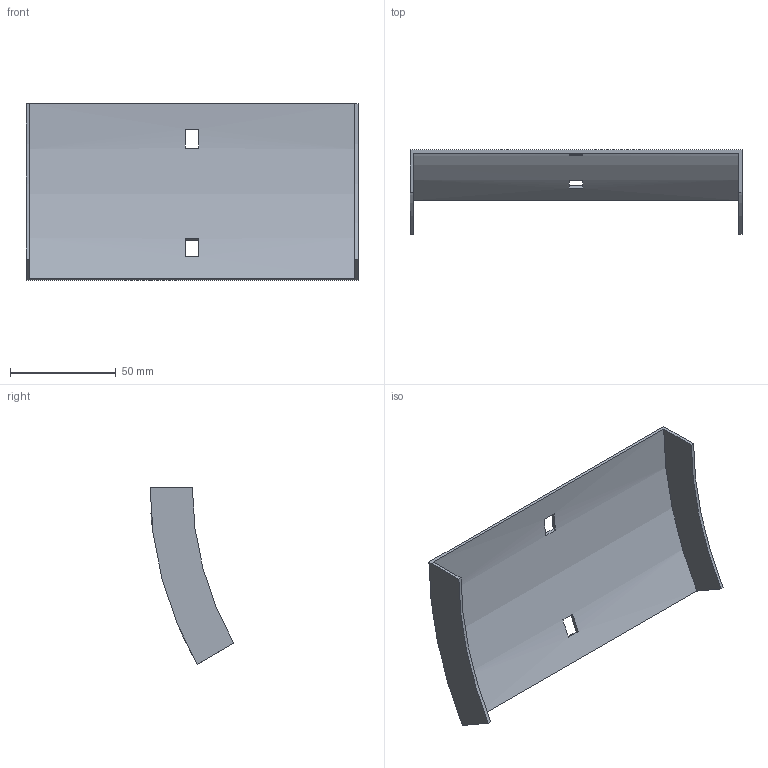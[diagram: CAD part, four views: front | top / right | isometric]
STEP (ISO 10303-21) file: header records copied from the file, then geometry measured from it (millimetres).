
FILE_DESCRIPTION (( 'STEP AP214' ), '1' );
FILE_NAME ('35N1H150.step', '2025-02-21T09:12:27', ( '' ), ( '' ), 'SwSTEP 2.0', 'SolidWorks 2023', '' );
FILE_SCHEMA (( 'AUTOMOTIVE_DESIGN' ));
Length unit declared in the file: millimetre
Products named in the file (1): 35N1H150
Bounding box: 157 x 39.69 x 83.5 mm (x, y, z)
Volume: 24864.1 mm3; surface area: 34059.7 mm2
Topology: 1 solids, 1 shells, 18 faces, 48 edges, 32 vertices
Faces by surface type: plane 14, cylinder 4
Entity records: 599 total; most frequent: DIRECTION 102, CARTESIAN_POINT 99, ORIENTED_EDGE 96, EDGE_CURVE 48, AXIS2_PLACEMENT_3D 35, VECTOR 32, LINE 32, VERTEX_POINT 32
